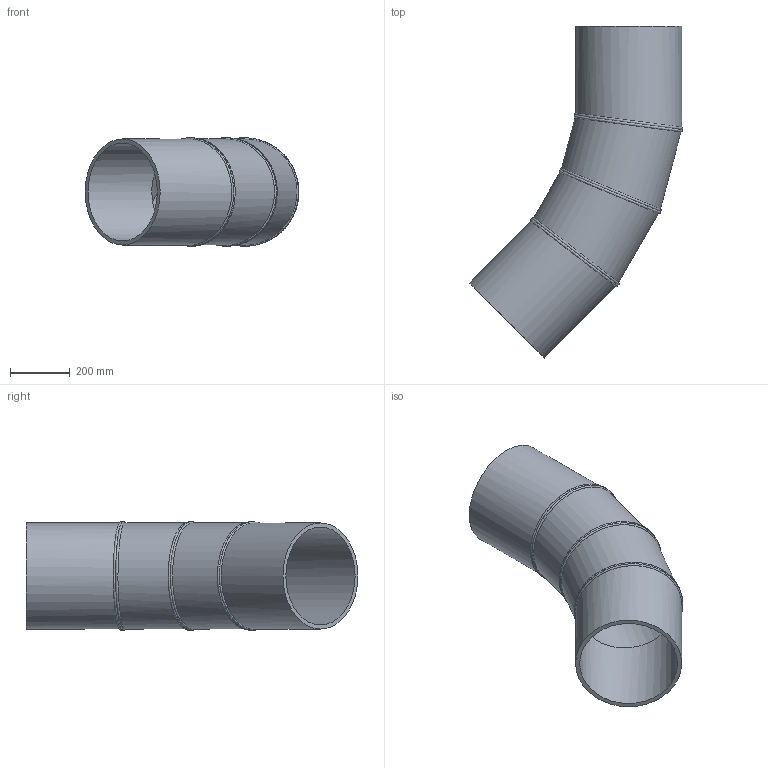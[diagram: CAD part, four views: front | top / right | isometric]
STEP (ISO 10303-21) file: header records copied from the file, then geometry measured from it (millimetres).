
FILE_DESCRIPTION(/* description */ ('Unknown'),/* implementation_level */ '2;1');
FILE_NAME(/* name */ 'Curva 45° a settore DE355 SDR17',/* time_stamp */ '2022-07-26T09:40:13+02:00',/* author */ ('Unknown'),/* organization */ ('Unknown'),/* preprocessor_version */ 'ST-DEVELOPER v18.102',/* originating_system */ 'Solid Edge',/* authorisation */ 'Unknown');
FILE_SCHEMA (('AUTOMOTIVE_DESIGN {1 0 10303 214 3 1 1}'));
Length unit declared in the file: millimetre
Products named in the file (3): Curva 45° a settore DE355 SDR17; Tubo x Gomito 45° DE355 SDR17 - 1; Tubo x Gomito 45° DE355 SDR17 - 2
Assembly tree (4 placements, depth 2):
  Curva 45° a settore DE355 SDR17
    Tubo x Gomito 45° DE355 SDR17 - 1  x2
    Tubo x Gomito 45° DE355 SDR17 - 2  x2
Bounding box: 715.3 x 1111.23 x 362.99 mm (x, y, z)
Volume: 16511531.8 mm3; surface area: 2552290.8 mm2
Topology: 4 solids, 4 shells, 34 faces, 74 edges, 48 vertices
Faces by surface type: cylinder 20, plane 8, bspline 6
Full cylindrical faces by diameter (mm): 327.8 x4, 355 x4
Entity records: 2349 total; most frequent: CARTESIAN_POINT 1947, DIRECTION 72, ORIENTED_EDGE 52, AXIS2_PLACEMENT_3D 36, EDGE_LOOP 28, FACE_BOUND 28, EDGE_CURVE 26, VERTEX_POINT 20
